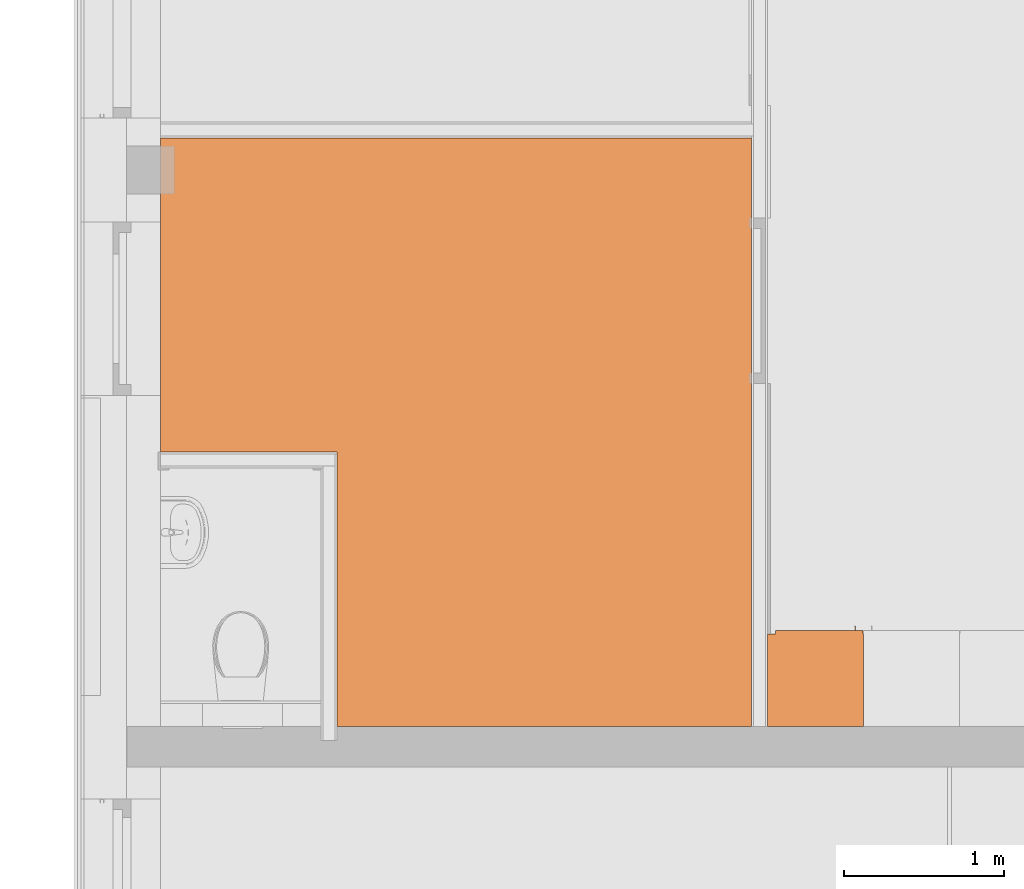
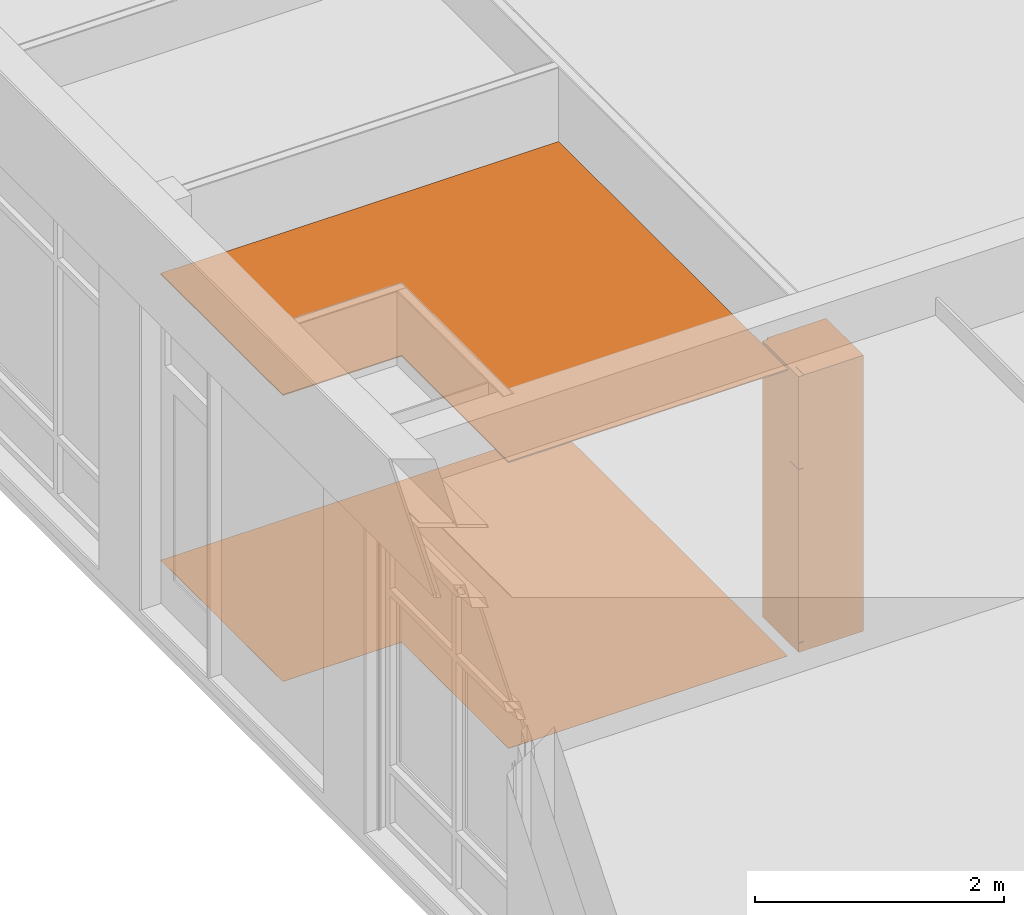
# One storey, part 129 of 167: 3 proxies.
"""IFC2X3 building model written with IfcOpenShell, lengths in millimetres."""

from ifc_helpers import new_model, entity, si_unit, converted_unit, derived_unit, money_unit, direction, frame, origin_with_axes, place, context, subcontext, project, spatial, open_shell, faceted_brep, surface_model, material, type_object, element, save


model = new_model("IFC2X3")

# Units and contexts
model_context = context("Model", 3, precision=0.01, world=origin_with_axes(), true_north=direction((0.0, 1.0)))
plan_context = context("Plan", 3, precision=0.01, world=origin_with_axes(), true_north=direction((0.0, 1.0)))
body_context = subcontext(model_context, "Body", "Model", "MODEL_VIEW")
ifc_project = project(units=[si_unit("LENGTHUNIT", "METRE", prefix="MILLI"), si_unit("AREAUNIT", "SQUARE_METRE"), si_unit("VOLUMEUNIT", "CUBIC_METRE"), converted_unit("PLANEANGLEUNIT", "DEGREE", entity("IfcPlaneAngleMeasure", 0.0174532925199), si_unit("PLANEANGLEUNIT", "RADIAN"), dimensions=[0, 0, 0, 0, 0, 0, 0]), si_unit("SOLIDANGLEUNIT", "STERADIAN"), money_unit("EUR"), converted_unit("TIMEUNIT", "Year", entity("IfcTimeMeasure", 31556926.0), si_unit("TIMEUNIT", "SECOND"), dimensions=[0, 0, 1, 0, 0, 0, 0]), si_unit("MASSUNIT", "GRAM", prefix="KILO"), si_unit("THERMODYNAMICTEMPERATUREUNIT", "DEGREE_CELSIUS"), si_unit("LUMINOUSINTENSITYUNIT", "LUMEN"), si_unit("ENERGYUNIT", "JOULE", prefix="MEGA"), derived_unit("THERMALCONDUCTANCEUNIT", [(si_unit("POWERUNIT", "WATT"), 1), (si_unit("LENGTHUNIT", "METRE"), -1), (si_unit("THERMODYNAMICTEMPERATUREUNIT", "KELVIN"), -1)]), derived_unit("SPECIFICHEATCAPACITYUNIT", [(si_unit("ENERGYUNIT", "JOULE"), 1), (si_unit("MASSUNIT", "GRAM", prefix="KILO"), -1), (si_unit("THERMODYNAMICTEMPERATUREUNIT", "KELVIN"), -1)]), derived_unit("MASSDENSITYUNIT", [(si_unit("MASSUNIT", "GRAM", prefix="KILO"), 1), (si_unit("VOLUMEUNIT", "CUBIC_METRE"), -1)])], contexts=[model_context, plan_context])

# Site, building, storey
site_placement = place(None, origin_with_axes())
site = spatial("IfcSite", under=ifc_project, at=site_placement, Name="Site", CompositionType="ELEMENT")
building_placement = place(site_placement, origin_with_axes())
building = spatial("IfcBuilding", under=site, at=building_placement, Name="Naam gebouw", CompositionType="ELEMENT")
storey_placement = place(building_placement, origin_with_axes())
storey = spatial("IfcBuildingStorey", under=building, at=storey_placement, Name="Begane grond", CompositionType="ELEMENT", Elevation=0.0)

# Proxies
ifc_material_1 = material(Name="ALG - BINNENAFWERKING")
building_element_proxy_type_1 = type_object("IfcBuildingElementProxyType", Name="ALG - BINNENAFWERKING 10", PredefinedType="NOTDEFINED")
proxy_1_placement = place(storey_placement, frame((214.0, 39800.0, 2800.0), z_axis=(0.0, 0.0, 1.0), x_axis=(1.0, 0.0, 0.0)))
element("IfcBuildingElementProxy", 1, at=proxy_1_placement, inside=storey, type_object=building_element_proxy_type_1, material=ifc_material_1, Name="23__Vloer-x", context=body_context, shape_type="Brep", body=[
    faceted_brep([(0.0, 0.0, 10.0), (0.0, 0.0, 0.0), (0.0, -1960.37165493, 0.0), (0.0, -1960.37165493, 10.0), (3686.0, 0.0, 10.0), (3686.0, 0.0, 0.0), (3686.0, -3675.0, 0.0), (1100.00000742, -3675.0, 0.0), (1100.0, -1960.37165493, 0.0), (1100.0, -1960.37165493, 10.0), (1100.00000742, -3675.0, 10.0), (3686.0, -3675.0, 10.0)], [[[0, 1, 2, 3]], [[4, 5, 1, 0]], [[2, 1, 5, 6, 7, 8]], [[3, 2, 8, 9]], [[4, 0, 3, 9, 10, 11]], [[11, 6, 5, 4]], [[10, 7, 6, 11]], [[9, 8, 7, 10]]]),
])
building_element_proxy_type_2 = type_object("IfcBuildingElementProxyType", Name="Kast hoog 1D 24", PredefinedType="NOTDEFINED")
proxy_2_placement = place(storey_placement, frame((4000.0, 36725.0, 0.0), z_axis=(0.0, 0.0, 1.0), x_axis=(-1.0, 0.0, 0.0)))
element("IfcBuildingElementProxy", 2, at=proxy_2_placement, inside=storey, type_object=building_element_proxy_type_2, Name="__Object-x", context=body_context, shape_type="SurfaceModel", body=[
    faceted_brep([(-70.0, 20.0, 1780.0), (-70.0, 20.0, 1800.0), (-580.0, 20.0, 1800.0), (-580.0, 20.0, 1780.0), (-70.0, 580.0, 1780.0), (-70.0, 580.0, 1800.0), (-580.0, 580.0, 1800.0), (-580.0, 580.0, 1780.0)], [[[0, 1, 2, 3]], [[4, 5, 1, 0]], [[1, 5, 6, 2]], [[3, 2, 6, 7]], [[0, 3, 7, 4]], [[7, 6, 5, 4]]]),
    faceted_brep([(0.0, 20.0, 0.0), (0.0, 20.0, 90.0), (-600.0, 20.0, 90.0), (-600.0, 20.0, 0.0), (0.0, 600.0, 0.0), (0.0, 600.0, 90.0), (-600.0, 600.0, 90.0), (-600.0, 600.0, 0.0)], [[[0, 1, 2, 3]], [[4, 5, 1, 0]], [[1, 5, 6, 2]], [[3, 2, 6, 7]], [[0, 3, 7, 4]], [[7, 6, 5, 4]]]),
    faceted_brep([(-50.0, 20.0, 2680.0), (-50.0, 20.0, 2700.0), (-70.0, 20.0, 2700.0), (-70.0, 20.0, 2680.0), (-50.0, 600.0, 2680.0), (-50.0, 600.0, 2700.0), (-70.0, 600.0, 2700.0), (-580.0, 600.0, 2700.0), (-600.0, 600.0, 2700.0), (-600.0, 20.0, 2700.0), (-580.0, 20.0, 2700.0), (-580.0, 20.0, 2680.0), (-600.0, 20.0, 2680.0), (-600.0, 600.0, 2680.0), (-580.0, 600.0, 2680.0), (-70.0, 600.0, 2680.0)], [[[0, 1, 2, 3]], [[4, 5, 1, 0]], [[1, 5, 6, 7, 8, 9, 10, 2]], [[3, 2, 10, 11]], [[0, 3, 11, 12, 13, 14, 15, 4]], [[15, 6, 5, 4]], [[14, 7, 6, 15]], [[13, 8, 7, 14]], [[12, 9, 8, 13]], [[11, 10, 9, 12]]]),
    faceted_brep([(-50.0, 20.0, 90.0), (-50.0, 20.0, 110.0), (-70.0, 20.0, 110.0), (-70.0, 20.0, 90.0), (-50.0, 600.0, 90.0), (-50.0, 600.0, 110.0), (-70.0, 600.0, 110.0), (-580.0, 600.0, 110.0), (-600.0, 600.0, 110.0), (-600.0, 20.0, 110.0), (-580.0, 20.0, 110.0), (-580.0, 20.0, 90.0), (-600.0, 20.0, 90.0), (-600.0, 600.0, 90.0), (-580.0, 600.0, 90.0), (-70.0, 600.0, 90.0)], [[[0, 1, 2, 3]], [[4, 5, 1, 0]], [[1, 5, 6, 7, 8, 9, 10, 2]], [[3, 2, 10, 11]], [[0, 3, 11, 12, 13, 14, 15, 4]], [[15, 6, 5, 4]], [[14, 7, 6, 15]], [[13, 8, 7, 14]], [[12, 9, 8, 13]], [[11, 10, 9, 12]]]),
    faceted_brep([(-50.0, 20.0, 110.0), (-50.0, 20.0, 2680.0), (-70.0, 20.0, 2680.0), (-70.0, 20.0, 110.0), (-50.0, 600.0, 110.0), (-50.0, 600.0, 2680.0), (-600.0, 600.0, 2680.0), (-600.0, 20.0, 2680.0), (-580.0, 20.0, 2680.0), (-580.0, 580.0, 2680.0), (-70.0, 580.0, 2680.0), (-70.0, 580.0, 110.0), (-580.0, 580.0, 110.0), (-580.0, 20.0, 110.0), (-600.0, 20.0, 110.0), (-600.0, 600.0, 110.0)], [[[0, 1, 2, 3]], [[4, 5, 1, 0]], [[1, 5, 6, 7, 8, 9, 10, 2]], [[3, 2, 10, 11]], [[0, 3, 11, 12, 13, 14, 15, 4]], [[15, 6, 5, 4]], [[14, 7, 6, 15]], [[13, 8, 7, 14]], [[12, 9, 8, 13]], [[11, 10, 9, 12]]]),
    faceted_brep([(-580.0, 20.0, 414.0), (-580.0, 20.0, 434.0), (-580.0, 580.0, 434.0), (-580.0, 580.0, 414.0), (-70.0, 20.0, 414.0), (-70.0, 20.0, 434.0), (-70.0, 580.0, 434.0), (-70.0, 580.0, 414.0)], [[[0, 1, 2, 3]], [[4, 5, 1, 0]], [[1, 5, 6, 2]], [[3, 2, 6, 7]], [[0, 3, 7, 4]], [[7, 6, 5, 4]]]),
    faceted_brep([(-580.0, 20.0, 758.0), (-580.0, 20.0, 778.0), (-580.0, 580.0, 778.0), (-580.0, 580.0, 758.0), (-70.0, 20.0, 758.0), (-70.0, 20.0, 778.0), (-70.0, 580.0, 778.0), (-70.0, 580.0, 758.0)], [[[0, 1, 2, 3]], [[4, 5, 1, 0]], [[1, 5, 6, 2]], [[3, 2, 6, 7]], [[0, 3, 7, 4]], [[7, 6, 5, 4]]]),
    faceted_brep([(-580.0, 20.0, 1102.0), (-580.0, 20.0, 1122.0), (-580.0, 580.0, 1122.0), (-580.0, 580.0, 1102.0), (-70.0, 20.0, 1102.0), (-70.0, 20.0, 1122.0), (-70.0, 580.0, 1122.0), (-70.0, 580.0, 1102.0)], [[[0, 1, 2, 3]], [[4, 5, 1, 0]], [[1, 5, 6, 2]], [[3, 2, 6, 7]], [[0, 3, 7, 4]], [[7, 6, 5, 4]]]),
    faceted_brep([(-580.0, 20.0, 1446.0), (-580.0, 20.0, 1466.0), (-580.0, 580.0, 1466.0), (-580.0, 580.0, 1446.0), (-70.0, 20.0, 1446.0), (-70.0, 20.0, 1466.0), (-70.0, 580.0, 1466.0), (-70.0, 580.0, 1446.0)], [[[0, 1, 2, 3]], [[4, 5, 1, 0]], [[1, 5, 6, 2]], [[3, 2, 6, 7]], [[0, 3, 7, 4]], [[7, 6, 5, 4]]]),
    faceted_brep([(-51.5, 20.0, 91.5), (-51.5, 0.0, 91.5), (-598.5, 0.0, 91.5), (-598.5, 20.0, 91.5), (-51.5, 20.0, 1788.5), (-51.5, 0.0, 1788.5), (-598.5, 0.0, 1788.5), (-598.5, 20.0, 1788.5)], [[[0, 1, 2, 3]], [[4, 5, 1, 0]], [[1, 5, 6, 2]], [[3, 2, 6, 7]], [[0, 3, 7, 4]], [[7, 6, 5, 4]]]),
    faceted_brep([(-551.397777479, -27.7764571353, 891.5), (-551.5, -27.0, 891.5), (-551.397777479, -26.2235428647, 891.5), (-551.098076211, -25.5, 891.5), (-550.621320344, -24.8786796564, 891.5), (-550.0, -24.4019237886, 891.5), (-549.276457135, -24.1022225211, 891.5), (-548.5, -24.0, 891.5), (-547.723542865, -24.1022225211, 891.5), (-547.0, -24.4019237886, 891.5), (-546.378679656, -24.8786796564, 891.5), (-545.901923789, -25.5, 891.5), (-545.602222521, -26.2235428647, 891.5), (-545.5, -27.0, 891.5), (-545.602222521, -27.7764571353, 891.5), (-545.901923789, -28.5, 891.5), (-546.378679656, -29.1213203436, 891.5), (-547.0, -29.5980762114, 891.5), (-547.723542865, -29.8977774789, 891.5), (-548.5, -30.0, 891.5), (-549.276457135, -29.8977774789, 891.5), (-550.0, -29.5980762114, 891.5), (-550.621320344, -29.1213203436, 891.5), (-551.098076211, -28.5, 891.5), (-551.397777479, -27.7764571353, 1141.5), (-551.5, -27.0, 1141.5), (-551.397777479, -26.2235428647, 1141.5), (-551.098076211, -25.5, 1141.5), (-550.621320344, -24.8786796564, 1141.5), (-550.0, -24.4019237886, 1141.5), (-549.276457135, -24.1022225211, 1141.5), (-548.5, -24.0, 1141.5), (-547.723542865, -24.1022225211, 1141.5), (-547.0, -24.4019237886, 1141.5), (-546.378679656, -24.8786796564, 1141.5), (-545.901923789, -25.5, 1141.5), (-545.602222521, -26.2235428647, 1141.5), (-545.5, -27.0, 1141.5), (-545.602222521, -27.7764571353, 1141.5), (-545.901923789, -28.5, 1141.5), (-546.378679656, -29.1213203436, 1141.5), (-547.0, -29.5980762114, 1141.5), (-547.723542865, -29.8977774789, 1141.5), (-548.5, -30.0, 1141.5), (-549.276457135, -29.8977774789, 1141.5), (-550.0, -29.5980762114, 1141.5), (-550.621320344, -29.1213203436, 1141.5), (-551.098076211, -28.5, 1141.5)], [[[0, 1, 2, 3, 4, 5, 6, 7, 8, 9, 10, 11, 12, 13, 14, 15, 16, 17, 18, 19, 20, 21, 22, 23]], [[0, 24, 25, 1]], [[1, 25, 26, 2]], [[2, 26, 27, 3]], [[3, 27, 28, 4]], [[4, 28, 29, 5]], [[5, 29, 30, 6]], [[6, 30, 31, 7]], [[7, 31, 32, 8]], [[8, 32, 33, 9]], [[9, 33, 34, 10]], [[10, 34, 35, 11]], [[11, 35, 36, 12]], [[12, 36, 37, 13]], [[13, 37, 38, 14]], [[14, 38, 39, 15]], [[15, 39, 40, 16]], [[16, 40, 41, 17]], [[17, 41, 42, 18]], [[18, 42, 43, 19]], [[19, 43, 44, 20]], [[20, 44, 45, 21]], [[21, 45, 46, 22]], [[22, 46, 47, 23]], [[23, 47, 24, 0]], [[24, 47, 46, 45, 44, 43, 42, 41, 40, 39, 38, 37, 36, 35, 34, 33, 32, 31, 30, 29, 28, 27, 26, 25]]]),
    surface_model("IfcShellBasedSurfaceModel", [(-549.147047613, -24.070609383, 914.085185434), (-549.147047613, 0.0, 914.085185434), (-548.5, 0.0, 914.0), (-548.5, -24.0, 914.0), (-549.75, -24.2728219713, 914.334936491), (-549.75, 0.0, 914.334936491), (-550.267766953, 0.0, 914.732233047), (-550.665063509, 0.0, 915.25), (-550.914814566, 0.0, 915.852952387), (-551.0, 0.0, 916.5), (-550.914814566, 0.0, 917.147047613), (-550.665063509, 0.0, 917.75), (-550.267766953, 0.0, 918.267766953), (-549.75, 0.0, 918.665063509), (-549.147047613, 0.0, 918.914814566), (-548.5, 0.0, 919.0), (-547.852952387, 0.0, 918.914814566), (-547.25, 0.0, 918.665063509), (-546.732233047, 0.0, 918.267766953), (-546.334936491, 0.0, 917.75), (-546.085185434, 0.0, 917.147047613), (-546.0, 0.0, 916.5), (-546.085185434, 0.0, 915.852952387), (-546.334936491, 0.0, 915.25), (-546.732233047, 0.0, 914.732233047), (-547.25, 0.0, 914.334936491), (-547.852952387, 0.0, 914.085185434), (-547.852952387, -24.070609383, 914.085185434), (-550.267766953, -24.5761600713, 914.732233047), (-550.665063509, -24.9233440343, 915.25), (-550.914814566, -25.2199239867, 915.852952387), (-551.0, -25.3416876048, 916.5), (-550.914814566, -25.2199239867, 917.147047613), (-550.665063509, -24.9233440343, 917.75), (-550.267766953, -24.5761600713, 918.267766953), (-549.75, -24.2728219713, 918.665063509), (-549.147047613, -24.070609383, 918.914814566), (-548.5, -24.0, 919.0), (-547.852952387, -24.070609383, 918.914814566), (-547.25, -24.2728219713, 918.665063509), (-546.732233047, -24.5761600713, 918.267766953), (-546.334936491, -24.9233440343, 917.75), (-546.085185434, -25.2199239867, 917.147047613), (-546.0, -25.3416876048, 916.5), (-546.085185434, -25.2199239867, 915.852952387), (-546.334936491, -24.9233440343, 915.25), (-546.732233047, -24.5761600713, 914.732233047), (-547.25, -24.2728219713, 914.334936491)], [open_shell([[[0, 1, 2, 3]], [[4, 5, 1, 0]], [[1, 5, 6, 7, 8, 9, 10, 11, 12, 13, 14, 15, 16, 17, 18, 19, 20, 21, 22, 23, 24, 25, 26, 2]], [[3, 2, 26, 27]], [[28, 6, 5, 4]], [[29, 7, 6, 28]], [[30, 8, 7, 29]], [[31, 9, 8, 30]], [[32, 10, 9, 31]], [[33, 11, 10, 32]], [[34, 12, 11, 33]], [[35, 13, 12, 34]], [[36, 14, 13, 35]], [[37, 15, 14, 36]], [[38, 16, 15, 37]], [[39, 17, 16, 38]], [[40, 18, 17, 39]], [[41, 19, 18, 40]], [[42, 20, 19, 41]], [[43, 21, 20, 42]], [[44, 22, 21, 43]], [[45, 23, 22, 44]], [[46, 24, 23, 45]], [[47, 25, 24, 46]], [[27, 26, 25, 47]]])]),
    surface_model("IfcShellBasedSurfaceModel", [(-549.147047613, -24.070609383, 1114.08518543), (-549.147047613, 0.0, 1114.08518543), (-548.5, 0.0, 1114.0), (-548.5, -24.0, 1114.0), (-549.75, -24.2728219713, 1114.33493649), (-549.75, 0.0, 1114.33493649), (-550.267766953, 0.0, 1114.73223305), (-550.665063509, 0.0, 1115.25), (-550.914814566, 0.0, 1115.85295239), (-551.0, 0.0, 1116.5), (-550.914814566, 0.0, 1117.14704761), (-550.665063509, 0.0, 1117.75), (-550.267766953, 0.0, 1118.26776695), (-549.75, 0.0, 1118.66506351), (-549.147047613, 0.0, 1118.91481457), (-548.5, 0.0, 1119.0), (-547.852952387, 0.0, 1118.91481457), (-547.25, 0.0, 1118.66506351), (-546.732233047, 0.0, 1118.26776695), (-546.334936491, 0.0, 1117.75), (-546.085185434, 0.0, 1117.14704761), (-546.0, 0.0, 1116.5), (-546.085185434, 0.0, 1115.85295239), (-546.334936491, 0.0, 1115.25), (-546.732233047, 0.0, 1114.73223305), (-547.25, 0.0, 1114.33493649), (-547.852952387, 0.0, 1114.08518543), (-547.852952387, -24.070609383, 1114.08518543), (-550.267766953, -24.5761600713, 1114.73223305), (-550.665063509, -24.9233440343, 1115.25), (-550.914814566, -25.2199239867, 1115.85295239), (-551.0, -25.3416876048, 1116.5), (-550.914814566, -25.2199239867, 1117.14704761), (-550.665063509, -24.9233440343, 1117.75), (-550.267766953, -24.5761600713, 1118.26776695), (-549.75, -24.2728219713, 1118.66506351), (-549.147047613, -24.070609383, 1118.91481457), (-548.5, -24.0, 1119.0), (-547.852952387, -24.070609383, 1118.91481457), (-547.25, -24.2728219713, 1118.66506351), (-546.732233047, -24.5761600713, 1118.26776695), (-546.334936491, -24.9233440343, 1117.75), (-546.085185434, -25.2199239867, 1117.14704761), (-546.0, -25.3416876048, 1116.5), (-546.085185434, -25.2199239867, 1115.85295239), (-546.334936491, -24.9233440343, 1115.25), (-546.732233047, -24.5761600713, 1114.73223305), (-547.25, -24.2728219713, 1114.33493649)], [open_shell([[[0, 1, 2, 3]], [[4, 5, 1, 0]], [[1, 5, 6, 7, 8, 9, 10, 11, 12, 13, 14, 15, 16, 17, 18, 19, 20, 21, 22, 23, 24, 25, 26, 2]], [[3, 2, 26, 27]], [[28, 6, 5, 4]], [[29, 7, 6, 28]], [[30, 8, 7, 29]], [[31, 9, 8, 30]], [[32, 10, 9, 31]], [[33, 11, 10, 32]], [[34, 12, 11, 33]], [[35, 13, 12, 34]], [[36, 14, 13, 35]], [[37, 15, 14, 36]], [[38, 16, 15, 37]], [[39, 17, 16, 38]], [[40, 18, 17, 39]], [[41, 19, 18, 40]], [[42, 20, 19, 41]], [[43, 21, 20, 42]], [[44, 22, 21, 43]], [[45, 23, 22, 44]], [[46, 24, 23, 45]], [[47, 25, 24, 46]], [[27, 26, 25, 47]]])]),
    faceted_brep([(-51.5, 20.0, 1791.5), (-51.5, 0.0, 1791.5), (-598.5, 0.0, 1791.5), (-598.5, 20.0, 1791.5), (-51.5, 20.0, 2698.5), (-51.5, 0.0, 2698.5), (-598.5, 0.0, 2698.5), (-598.5, 20.0, 2698.5)], [[[0, 1, 2, 3]], [[4, 5, 1, 0]], [[1, 5, 6, 2]], [[3, 2, 6, 7]], [[0, 3, 7, 4]], [[7, 6, 5, 4]]]),
    faceted_brep([(-551.397777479, -27.7764571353, 1841.5), (-551.5, -27.0, 1841.5), (-551.397777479, -26.2235428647, 1841.5), (-551.098076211, -25.5, 1841.5), (-550.621320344, -24.8786796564, 1841.5), (-550.0, -24.4019237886, 1841.5), (-549.276457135, -24.1022225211, 1841.5), (-548.5, -24.0, 1841.5), (-547.723542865, -24.1022225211, 1841.5), (-547.0, -24.4019237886, 1841.5), (-546.378679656, -24.8786796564, 1841.5), (-545.901923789, -25.5, 1841.5), (-545.602222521, -26.2235428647, 1841.5), (-545.5, -27.0, 1841.5), (-545.602222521, -27.7764571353, 1841.5), (-545.901923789, -28.5, 1841.5), (-546.378679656, -29.1213203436, 1841.5), (-547.0, -29.5980762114, 1841.5), (-547.723542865, -29.8977774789, 1841.5), (-548.5, -30.0, 1841.5), (-549.276457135, -29.8977774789, 1841.5), (-550.0, -29.5980762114, 1841.5), (-550.621320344, -29.1213203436, 1841.5), (-551.098076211, -28.5, 1841.5), (-551.397777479, -27.7764571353, 2091.5), (-551.5, -27.0, 2091.5), (-551.397777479, -26.2235428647, 2091.5), (-551.098076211, -25.5, 2091.5), (-550.621320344, -24.8786796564, 2091.5), (-550.0, -24.4019237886, 2091.5), (-549.276457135, -24.1022225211, 2091.5), (-548.5, -24.0, 2091.5), (-547.723542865, -24.1022225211, 2091.5), (-547.0, -24.4019237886, 2091.5), (-546.378679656, -24.8786796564, 2091.5), (-545.901923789, -25.5, 2091.5), (-545.602222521, -26.2235428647, 2091.5), (-545.5, -27.0, 2091.5), (-545.602222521, -27.7764571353, 2091.5), (-545.901923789, -28.5, 2091.5), (-546.378679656, -29.1213203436, 2091.5), (-547.0, -29.5980762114, 2091.5), (-547.723542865, -29.8977774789, 2091.5), (-548.5, -30.0, 2091.5), (-549.276457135, -29.8977774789, 2091.5), (-550.0, -29.5980762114, 2091.5), (-550.621320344, -29.1213203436, 2091.5), (-551.098076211, -28.5, 2091.5)], [[[0, 1, 2, 3, 4, 5, 6, 7, 8, 9, 10, 11, 12, 13, 14, 15, 16, 17, 18, 19, 20, 21, 22, 23]], [[0, 24, 25, 1]], [[1, 25, 26, 2]], [[2, 26, 27, 3]], [[3, 27, 28, 4]], [[4, 28, 29, 5]], [[5, 29, 30, 6]], [[6, 30, 31, 7]], [[7, 31, 32, 8]], [[8, 32, 33, 9]], [[9, 33, 34, 10]], [[10, 34, 35, 11]], [[11, 35, 36, 12]], [[12, 36, 37, 13]], [[13, 37, 38, 14]], [[14, 38, 39, 15]], [[15, 39, 40, 16]], [[16, 40, 41, 17]], [[17, 41, 42, 18]], [[18, 42, 43, 19]], [[19, 43, 44, 20]], [[20, 44, 45, 21]], [[21, 45, 46, 22]], [[22, 46, 47, 23]], [[23, 47, 24, 0]], [[24, 47, 46, 45, 44, 43, 42, 41, 40, 39, 38, 37, 36, 35, 34, 33, 32, 31, 30, 29, 28, 27, 26, 25]]]),
    surface_model("IfcShellBasedSurfaceModel", [(-549.147047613, -24.070609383, 1864.08518543), (-549.147047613, 0.0, 1864.08518543), (-548.5, 0.0, 1864.0), (-548.5, -24.0, 1864.0), (-549.75, -24.2728219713, 1864.33493649), (-549.75, 0.0, 1864.33493649), (-550.267766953, 0.0, 1864.73223305), (-550.665063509, 0.0, 1865.25), (-550.914814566, 0.0, 1865.85295239), (-551.0, 0.0, 1866.5), (-550.914814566, 0.0, 1867.14704761), (-550.665063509, 0.0, 1867.75), (-550.267766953, 0.0, 1868.26776695), (-549.75, 0.0, 1868.66506351), (-549.147047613, 0.0, 1868.91481457), (-548.5, 0.0, 1869.0), (-547.852952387, 0.0, 1868.91481457), (-547.25, 0.0, 1868.66506351), (-546.732233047, 0.0, 1868.26776695), (-546.334936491, 0.0, 1867.75), (-546.085185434, 0.0, 1867.14704761), (-546.0, 0.0, 1866.5), (-546.085185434, 0.0, 1865.85295239), (-546.334936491, 0.0, 1865.25), (-546.732233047, 0.0, 1864.73223305), (-547.25, 0.0, 1864.33493649), (-547.852952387, 0.0, 1864.08518543), (-547.852952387, -24.070609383, 1864.08518543), (-550.267766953, -24.5761600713, 1864.73223305), (-550.665063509, -24.9233440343, 1865.25), (-550.914814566, -25.2199239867, 1865.85295239), (-551.0, -25.3416876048, 1866.5), (-550.914814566, -25.2199239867, 1867.14704761), (-550.665063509, -24.9233440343, 1867.75), (-550.267766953, -24.5761600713, 1868.26776695), (-549.75, -24.2728219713, 1868.66506351), (-549.147047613, -24.070609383, 1868.91481457), (-548.5, -24.0, 1869.0), (-547.852952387, -24.070609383, 1868.91481457), (-547.25, -24.2728219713, 1868.66506351), (-546.732233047, -24.5761600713, 1868.26776695), (-546.334936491, -24.9233440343, 1867.75), (-546.085185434, -25.2199239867, 1867.14704761), (-546.0, -25.3416876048, 1866.5), (-546.085185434, -25.2199239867, 1865.85295239), (-546.334936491, -24.9233440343, 1865.25), (-546.732233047, -24.5761600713, 1864.73223305), (-547.25, -24.2728219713, 1864.33493649)], [open_shell([[[0, 1, 2, 3]], [[4, 5, 1, 0]], [[1, 5, 6, 7, 8, 9, 10, 11, 12, 13, 14, 15, 16, 17, 18, 19, 20, 21, 22, 23, 24, 25, 26, 2]], [[3, 2, 26, 27]], [[28, 6, 5, 4]], [[29, 7, 6, 28]], [[30, 8, 7, 29]], [[31, 9, 8, 30]], [[32, 10, 9, 31]], [[33, 11, 10, 32]], [[34, 12, 11, 33]], [[35, 13, 12, 34]], [[36, 14, 13, 35]], [[37, 15, 14, 36]], [[38, 16, 15, 37]], [[39, 17, 16, 38]], [[40, 18, 17, 39]], [[41, 19, 18, 40]], [[42, 20, 19, 41]], [[43, 21, 20, 42]], [[44, 22, 21, 43]], [[45, 23, 22, 44]], [[46, 24, 23, 45]], [[47, 25, 24, 46]], [[27, 26, 25, 47]]])]),
    surface_model("IfcShellBasedSurfaceModel", [(-549.147047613, -24.070609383, 2064.08518543), (-549.147047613, 0.0, 2064.08518543), (-548.5, 0.0, 2064.0), (-548.5, -24.0, 2064.0), (-549.75, -24.2728219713, 2064.33493649), (-549.75, 0.0, 2064.33493649), (-550.267766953, 0.0, 2064.73223305), (-550.665063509, 0.0, 2065.25), (-550.914814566, 0.0, 2065.85295239), (-551.0, 0.0, 2066.5), (-550.914814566, 0.0, 2067.14704761), (-550.665063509, 0.0, 2067.75), (-550.267766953, 0.0, 2068.26776695), (-549.75, 0.0, 2068.66506351), (-549.147047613, 0.0, 2068.91481457), (-548.5, 0.0, 2069.0), (-547.852952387, 0.0, 2068.91481457), (-547.25, 0.0, 2068.66506351), (-546.732233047, 0.0, 2068.26776695), (-546.334936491, 0.0, 2067.75), (-546.085185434, 0.0, 2067.14704761), (-546.0, 0.0, 2066.5), (-546.085185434, 0.0, 2065.85295239), (-546.334936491, 0.0, 2065.25), (-546.732233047, 0.0, 2064.73223305), (-547.25, 0.0, 2064.33493649), (-547.852952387, 0.0, 2064.08518543), (-547.852952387, -24.070609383, 2064.08518543), (-550.267766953, -24.5761600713, 2064.73223305), (-550.665063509, -24.9233440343, 2065.25), (-550.914814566, -25.2199239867, 2065.85295239), (-551.0, -25.3416876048, 2066.5), (-550.914814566, -25.2199239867, 2067.14704761), (-550.665063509, -24.9233440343, 2067.75), (-550.267766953, -24.5761600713, 2068.26776695), (-549.75, -24.2728219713, 2068.66506351), (-549.147047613, -24.070609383, 2068.91481457), (-548.5, -24.0, 2069.0), (-547.852952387, -24.070609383, 2068.91481457), (-547.25, -24.2728219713, 2068.66506351), (-546.732233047, -24.5761600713, 2068.26776695), (-546.334936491, -24.9233440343, 2067.75), (-546.085185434, -25.2199239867, 2067.14704761), (-546.0, -25.3416876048, 2066.5), (-546.085185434, -25.2199239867, 2065.85295239), (-546.334936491, -24.9233440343, 2065.25), (-546.732233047, -24.5761600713, 2064.73223305), (-547.25, -24.2728219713, 2064.33493649)], [open_shell([[[0, 1, 2, 3]], [[4, 5, 1, 0]], [[1, 5, 6, 7, 8, 9, 10, 11, 12, 13, 14, 15, 16, 17, 18, 19, 20, 21, 22, 23, 24, 25, 26, 2]], [[3, 2, 26, 27]], [[28, 6, 5, 4]], [[29, 7, 6, 28]], [[30, 8, 7, 29]], [[31, 9, 8, 30]], [[32, 10, 9, 31]], [[33, 11, 10, 32]], [[34, 12, 11, 33]], [[35, 13, 12, 34]], [[36, 14, 13, 35]], [[37, 15, 14, 36]], [[38, 16, 15, 37]], [[39, 17, 16, 38]], [[40, 18, 17, 39]], [[41, 19, 18, 40]], [[42, 20, 19, 41]], [[43, 21, 20, 42]], [[44, 22, 21, 43]], [[45, 23, 22, 44]], [[46, 24, 23, 45]], [[47, 25, 24, 46]], [[27, 26, 25, 47]]])]),
    faceted_brep([(-50.0, 598.5, 91.5), (0.0, 598.5, 91.5), (0.0, 21.5, 91.5), (-50.0, 21.5, 91.5), (-50.0, 598.5, 1788.5), (0.0, 598.5, 1788.5), (0.0, 21.5, 1788.5), (-50.0, 21.5, 1788.5)], [[[0, 1, 2, 3]], [[4, 5, 1, 0]], [[1, 5, 6, 2]], [[3, 2, 6, 7]], [[0, 3, 7, 4]], [[7, 6, 5, 4]]]),
    faceted_brep([(-50.0, 598.5, 1791.5), (0.0, 598.5, 1791.5), (0.0, 21.5, 1791.5), (-50.0, 21.5, 1791.5), (-50.0, 598.5, 2698.5), (0.0, 598.5, 2698.5), (0.0, 21.5, 2698.5), (-50.0, 21.5, 2698.5)], [[[0, 1, 2, 3]], [[4, 5, 1, 0]], [[1, 5, 6, 2]], [[3, 2, 6, 7]], [[0, 3, 7, 4]], [[7, 6, 5, 4]]]),
])
ifc_material_2 = material(Name="_TenW_43_Marmoleum Salsa Verde")
building_element_proxy_type_3 = type_object("IfcBuildingElementProxyType", Name="_TenW_43_Marmoleum Salsa Verde 2", PredefinedType="NOTDEFINED")
proxy_3_placement = place(storey_placement, frame((1314.0, 36125.0, 0.0), z_axis=(0.0, 0.0, 1.0), x_axis=(1.0, 0.0, 0.0)))
element("IfcBuildingElementProxy", 3, at=proxy_3_placement, inside=storey, type_object=building_element_proxy_type_3, material=ifc_material_2, Name="23__Vloer-x", context=body_context, shape_type="Brep", body=[
    faceted_brep([(0.0, 0.0, 2.0), (0.0, 0.0, 0.0), (2586.0, 0.0, 0.0), (2586.0, 0.0, 2.0), (0.0, 1714.62834507, 2.0), (0.0, 1714.62834507, 0.0), (-1100.0, 1714.62834507, 0.0), (-1100.0, 3675.0, 0.0), (2586.0, 3675.0, 0.0), (2586.0, 3675.0, 2.0), (-1100.0, 3675.0, 2.0), (-1100.0, 1714.62834507, 2.0)], [[[0, 1, 2, 3]], [[4, 5, 1, 0]], [[2, 1, 5, 6, 7, 8]], [[3, 2, 8, 9]], [[4, 0, 3, 9, 10, 11]], [[11, 6, 5, 4]], [[10, 7, 6, 11]], [[9, 8, 7, 10]]]),
])

save(model, "model.ifc")
